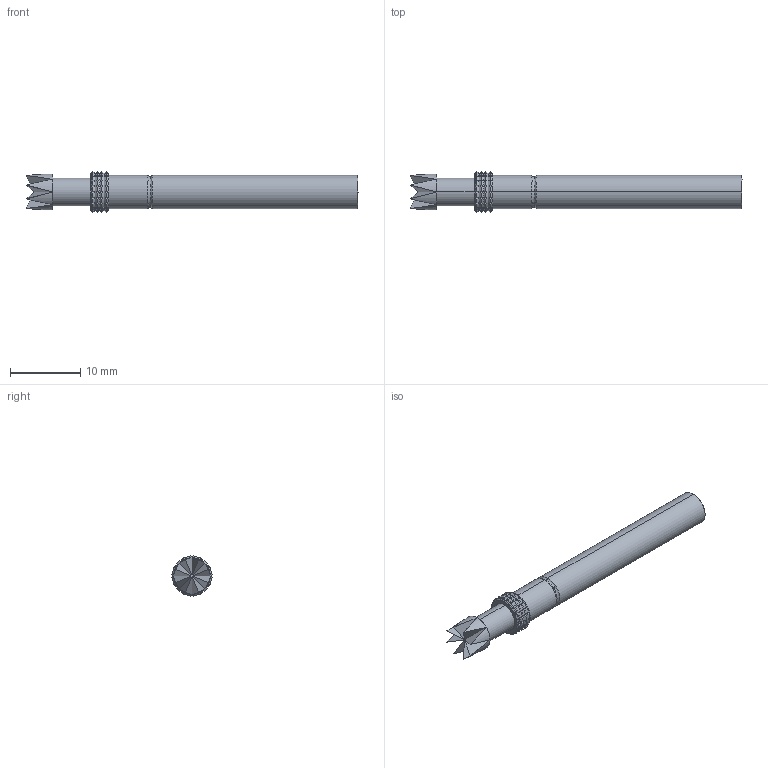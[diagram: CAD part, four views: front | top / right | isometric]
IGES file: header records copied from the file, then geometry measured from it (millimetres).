
Start section: SolidWorks IGES file using analytic representation for surfaces
Global section: file name: O:\PYLON\IGES FILES\P4301\P4301-1Z.IGS; native system: SolidWorks 2015; preprocessor: SolidWorks 2015; author: kgolden; date: 171023.104727; units: inch
Bounding box: 47.32 x 5.7 x 5.7 mm (x, y, z)
Surface area: 1413.8 mm2 (no closed solid volume)
Topology: 0 solids, 0 shells, 413 faces, 2276 edges, 2276 vertices
Faces by surface type: revolution 211, bspline 202
